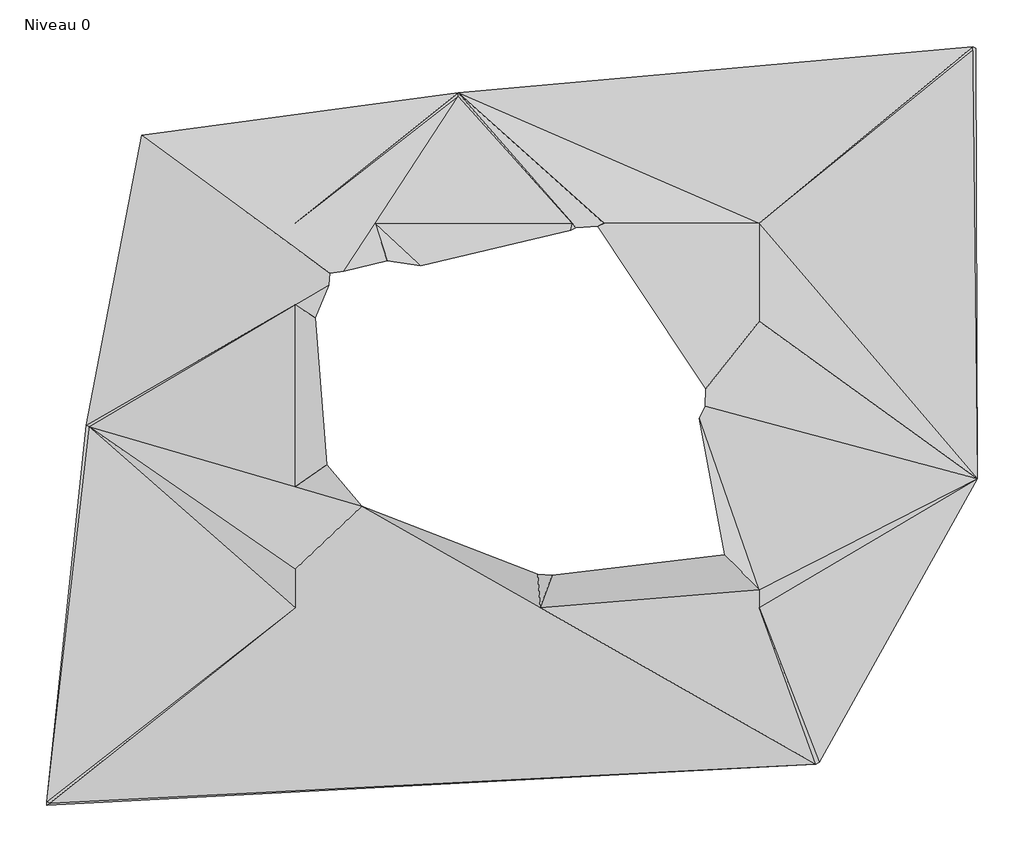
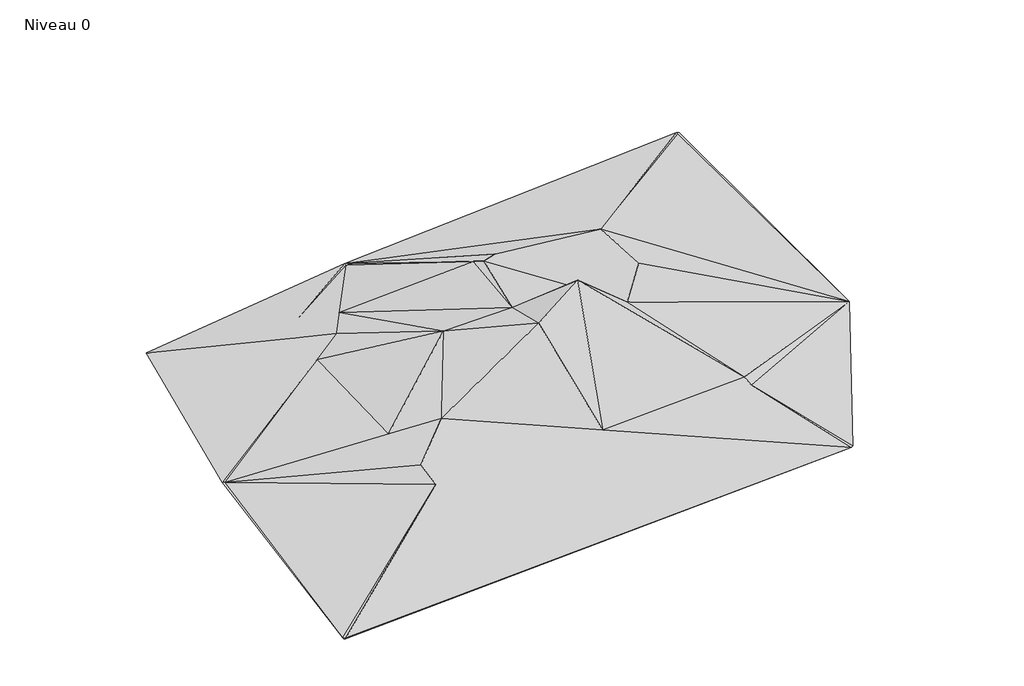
# One storey: 1 proxy.
"""IFC4 building model written with IfcOpenShell, lengths in millimetres."""

from ifc_helpers import new_model, si_unit, origin, place, context, project, spatial, triangles, element, save

model = new_model("IFC4")

# Units and contexts
model_context = context("Model", 3, world=origin())
ifc_project = project(units=[si_unit("LENGTHUNIT", "METRE", prefix="MILLI")], contexts=[model_context])

# Site, building, storey
site = spatial("IfcSite", under=ifc_project)
building = spatial("IfcBuilding", under=site)
storey = spatial("IfcBuildingStorey", under=building, Name="Niveau 0", Elevation=0.0)

# Proxy
placement = place(None, origin())
element("IfcBuildingElementProxy", 1, Name="Building Element Proxy", at=placement, inside=storey, context=model_context, shape_type="Tessellation", body=[
    triangles([(-22432.1191406, -18327.6115356, -1300.0000099), (14219.3471832, -16368.0939331, -1100.0000084), (14369.3473297, -16281.4922424, -1100.0000084), (21913.0461731, -2775.3724548, -1200.0000092), (21837.6344971, 17724.1972046, -1100.0000084), (21687.6343506, 17810.7988953, -1100.0000084), (-2824.3325478, 15609.5890686, -900.0000069), (-17907.2430084, 13574.709787, -1000.0000076), (-20546.7598022, -217.2865191, -1300.0000099), (-22432.1191406, -18154.4058289, -1300.0000099), (11510.2230103, -8913.16409, -52.0933228), (1084.7389486, -8913.16409, 295.7514607), (-10589.7780304, -8913.16409, 339.94215), (-10589.7780304, -7099.4794464, 667.4142036), (-10589.7780304, -3161.2346581, 590.0086813), (-10589.7780304, 5499.8997574, 848.9792839), (-10589.7780304, 8223.2410858, 795.0798122), (-10589.7780304, 9386.835759, 470.1550232), (-6784.4504196, 9386.835759, 626.5415531), (2599.5369667, 9386.835759, 1129.7199966), (2611.2472984, 9386.835759, 1134.1022146), (4113.3573555, 9386.835759, 1163.6238865), (4134.2964844, 9386.835759, 1160.9268854), (11510.2230103, 9386.835759, 436.9119942), (11510.2230103, 4734.6447235, 740.210051), (11510.2230103, -12.6313363, 726.6226536), (11510.2230103, -8075.8105499, 52.2760651), (11510.2230103, -8351.5908096, 20.0355957), (-2824.3325478, 15436.3845245, -900.0000069), (-22282.1189941, -18241.0086823, -1300.0000099), (-20396.7596558, -303.8890454, -1300.0000099), (21687.6343506, 17637.5943512, -1100.0000084), (-7424.6200653, -4083.4292404, 1200.0000092), (-8531.5199432, 6717.9794769, 1300.0000099), (3054.5635529, 8879.3190628, 1300.0000099), (8414.2643097, 809.5811073, 1300.0000099), (1091.6715923, 2072.8092339, 2700.0000206), (590.1631413, -2039.5599552, 4200.000032), (-4124.0160072, 1370.6974388, 3200.0000244), (4201.0238068, -535.0346386, 5200.0000397)], [[1, 30, 10], [12, 30, 2], [10, 13, 31], [13, 10, 30], [31, 13, 14], [10, 31, 9], [30, 12, 13], [13, 33, 14], [33, 13, 12], [39, 15, 33], [33, 15, 14], [38, 33, 12], [31, 15, 16], [12, 40, 38], [14, 15, 31], [30, 1, 2], [38, 39, 33], [9, 16, 8], [9, 31, 16], [8, 17, 18], [17, 8, 16], [19, 18, 17], [8, 18, 7], [17, 16, 34], [34, 39, 19], [39, 34, 16], [29, 7, 18], [20, 29, 19], [21, 7, 29], [18, 19, 29], [37, 19, 39], [19, 17, 34], [15, 39, 16], [37, 39, 38], [40, 27, 36], [27, 40, 12], [40, 36, 37], [36, 27, 26], [36, 26, 25], [37, 36, 35], [27, 4, 26], [40, 37, 38], [2, 3, 11], [28, 11, 4], [27, 12, 28], [4, 11, 3], [28, 4, 27], [28, 12, 11], [2, 11, 12], [26, 4, 25], [20, 35, 21], [35, 20, 37], [22, 23, 7], [22, 21, 35], [23, 22, 35], [7, 21, 22], [36, 23, 35], [23, 24, 7], [25, 24, 23], [25, 4, 24], [32, 5, 6], [24, 4, 32], [32, 6, 24], [4, 5, 32], [6, 7, 24], [36, 25, 23], [21, 29, 20], [37, 20, 19]], closed=False),
])

save(model, "model.ifc")
